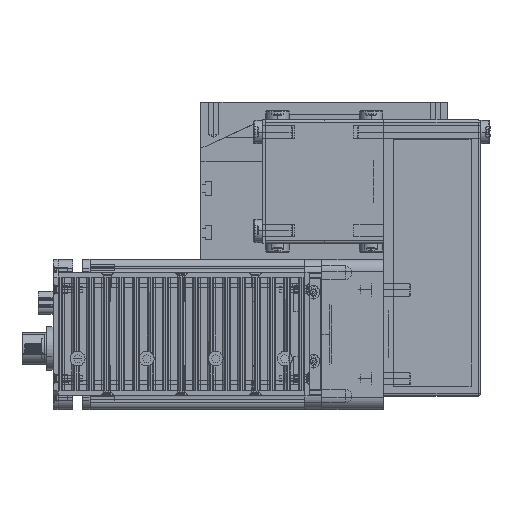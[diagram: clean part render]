
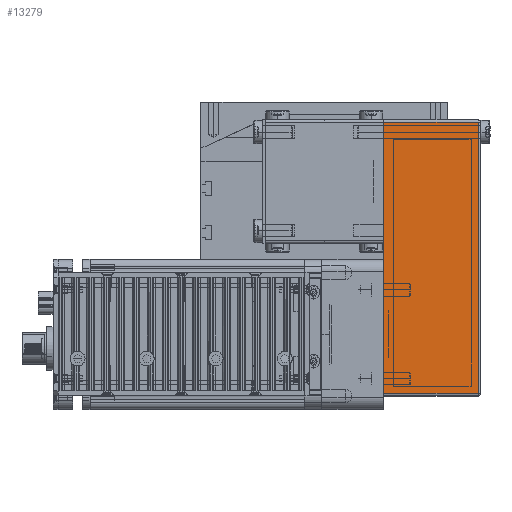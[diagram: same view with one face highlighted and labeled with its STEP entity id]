
A CAD part, top view. The second image highlights one B-rep face of the part: STEP entity #13279.
In plain terms, the highlighted planar face has unit normal (0, 0, 1) as drawn and (0, -1, 0) by its records, which use the part's own axes.
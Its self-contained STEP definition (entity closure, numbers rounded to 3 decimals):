
#13016 = VERTEX_POINT ( 'NONE', #45346 ) ;
#13018 = VERTEX_POINT ( 'NONE', #45338 ) ;
#13021 = EDGE_CURVE ( 'NONE', #13033, #13030, #45356, .T. ) ;
#13030 = VERTEX_POINT ( 'NONE', #45331 ) ;
#13033 = VERTEX_POINT ( 'NONE', #45395 ) ;
#13137 = EDGE_CURVE ( 'NONE', #13018, #13016, #45498, .T. ) ;
#13162 = EDGE_CURVE ( 'NONE', #13033, #13016, #45537, .T. ) ;
#13175 = EDGE_LOOP ( 'NONE', ( #13283, #13286, #13278, #13290 ) ) ;
#13278 = ORIENTED_EDGE ( 'NONE', *, *, #13137, .F. ) ;
#13279 = ADVANCED_FACE ( 'NONE', ( #45721 ), #45748, .F. ) ;
#13282 = EDGE_CURVE ( 'NONE', #13030, #13018, #45742, .T. ) ;
#13283 = ORIENTED_EDGE ( 'NONE', *, *, #13021, .F. ) ;
#13286 = ORIENTED_EDGE ( 'NONE', *, *, #13162, .T. ) ;
#13290 = ORIENTED_EDGE ( 'NONE', *, *, #13282, .F. ) ;
#45329 = DIRECTION ( 'NONE',  ( 0., 0., 1. ) ) ;
#45330 = VECTOR ( 'NONE', #45329, 1000. ) ;
#45331 = CARTESIAN_POINT ( 'NONE',  ( -49., -25., 38.5 ) ) ;
#45338 = CARTESIAN_POINT ( 'NONE',  ( 61., -25., 38.5 ) ) ;
#45346 = CARTESIAN_POINT ( 'NONE',  ( 61., -25., 0. ) ) ;
#45355 = CARTESIAN_POINT ( 'NONE',  ( -49., -25., 39.5 ) ) ;
#45356 = LINE ( 'NONE', #45355, #45330 ) ;
#45395 = CARTESIAN_POINT ( 'NONE',  ( -49., -25., 0. ) ) ;
#45495 = DIRECTION ( 'NONE',  ( 0., 0., -1. ) ) ;
#45496 = VECTOR ( 'NONE', #45495, 1000. ) ;
#45497 = CARTESIAN_POINT ( 'NONE',  ( 61., -25., 39.5 ) ) ;
#45498 = LINE ( 'NONE', #45497, #45496 ) ;
#45527 = DIRECTION ( 'NONE',  ( 1., 0., 0. ) ) ;
#45528 = VECTOR ( 'NONE', #45527, 1000. ) ;
#45536 = CARTESIAN_POINT ( 'NONE',  ( -50., -25., 0. ) ) ;
#45537 = LINE ( 'NONE', #45536, #45528 ) ;
#45714 = CARTESIAN_POINT ( 'NONE',  ( -50., -25., 39.5 ) ) ;
#45717 = AXIS2_PLACEMENT_3D ( 'NONE', #45714, #45743, #45740 ) ;
#45721 = FACE_OUTER_BOUND ( 'NONE', #13175, .T. ) ;
#45736 = DIRECTION ( 'NONE',  ( 1., 0., 0. ) ) ;
#45737 = VECTOR ( 'NONE', #45736, 1000. ) ;
#45740 = DIRECTION ( 'NONE',  ( 0., 0., 1. ) ) ;
#45741 = CARTESIAN_POINT ( 'NONE',  ( -50., -25., 38.5 ) ) ;
#45742 = LINE ( 'NONE', #45741, #45737 ) ;
#45743 = DIRECTION ( 'NONE',  ( 0., 1., 0. ) ) ;
#45748 = PLANE ( 'NONE',  #45717 ) ;
